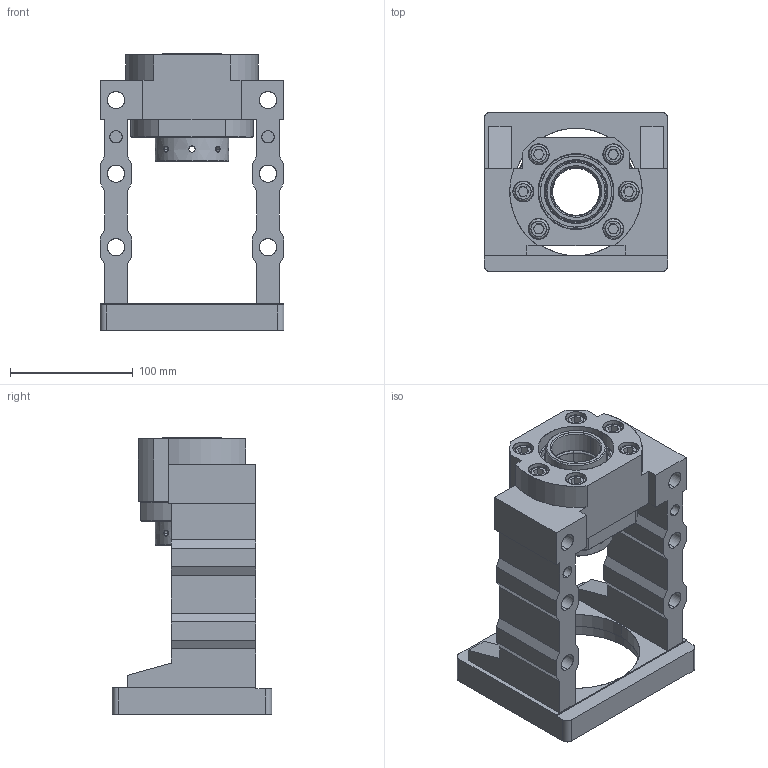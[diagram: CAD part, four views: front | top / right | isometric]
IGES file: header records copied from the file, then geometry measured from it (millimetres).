
Start section: SolidWorks IGES file using analytic representation for surfaces
Bounding box: 150 x 130 x 226 mm (x, y, z)
Surface area: 208608.2 mm2 (no closed solid volume)
Topology: 0 solids, 0 shells, 340 faces, 6204 edges, 6196 vertices
Faces by surface type: revolution 180, bspline 160
